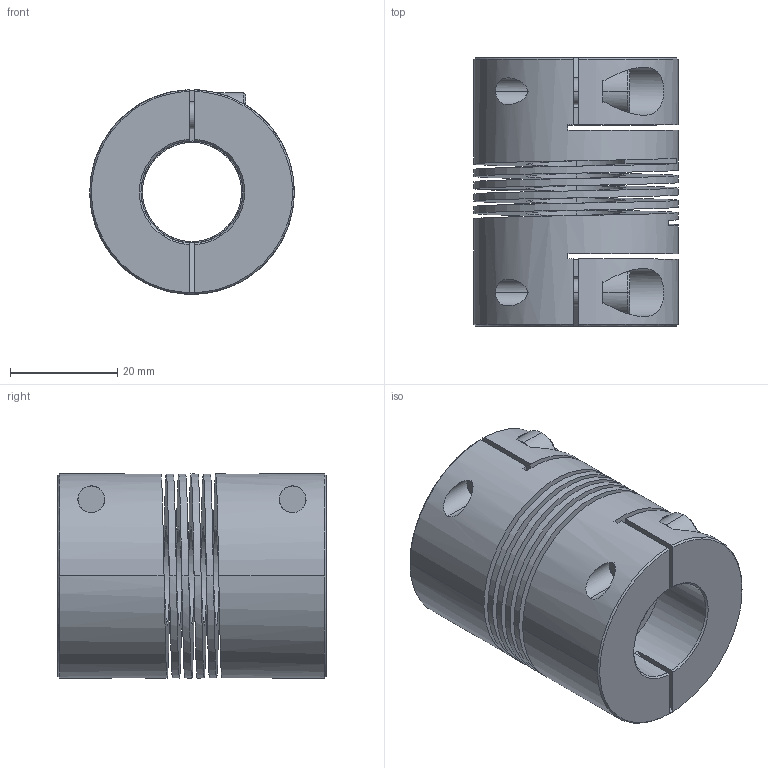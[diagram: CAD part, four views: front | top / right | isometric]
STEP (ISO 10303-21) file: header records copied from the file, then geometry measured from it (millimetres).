
FILE_DESCRIPTION((''),'2;1');
FILE_NAME('827_38','2006-12-06T',('Gary Melling'),(''),'PRO/ENGINEER BY PARAMETRIC TECHNOLOGY CORPORATION, 2006240','PRO/ENGINEER BY PARAMETRIC TECHNOLOGY CORPORATION, 2006240','');
FILE_SCHEMA(('CONFIG_CONTROL_DESIGN'));
Length unit declared in the file: millimetre
Products named in the file (1): 827_38
Bounding box: 38.1 x 50 x 38.09 mm (x, y, z)
Volume: 36866.2 mm3; surface area: 21462.3 mm2
Topology: 1 solids, 1 shells, 102 faces, 280 edges, 184 vertices
Faces by surface type: plane 48, cylinder 40, cone 10, bspline 4
Entity records: 4784 total; most frequent: CARTESIAN_POINT 2214, ORIENTED_EDGE 560, DIRECTION 478, EDGE_CURVE 280, VERTEX_POINT 184, AXIS2_PLACEMENT_3D 168, VECTOR 142, LINE 142
